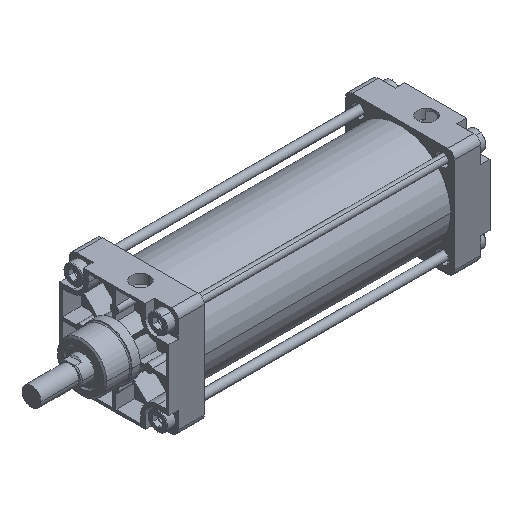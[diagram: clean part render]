
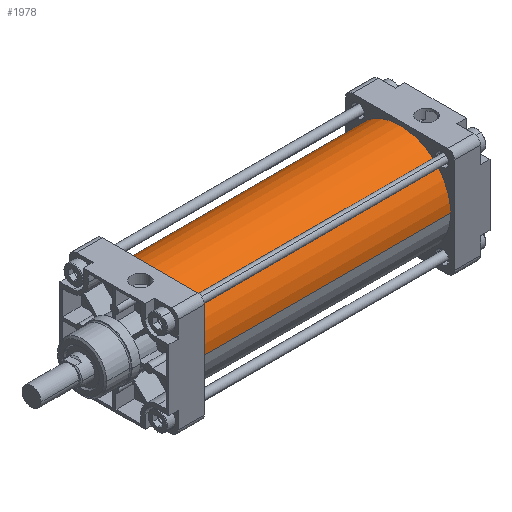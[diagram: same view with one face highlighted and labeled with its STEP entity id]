
A CAD part, isometric view. The second image highlights one B-rep face of the part: STEP entity #1978.
In plain terms, the highlighted cylindrical face has radius 53.5 mm (diameter 107 mm), a partial arc.
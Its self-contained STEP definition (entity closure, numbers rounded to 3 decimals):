
#1682=CARTESIAN_POINT('Axis2P3D Location',(0.,0.,0.)) ;
#1686=CARTESIAN_POINT('Vertex',(0.,53.5,0.)) ;
#1688=CARTESIAN_POINT('Vertex',(0.,-53.5,0.)) ;
#1948=CARTESIAN_POINT('Axis2P3D Location',(132.,0.,0.)) ;
#1953=CARTESIAN_POINT('Line Origine',(132.,53.5,0.)) ;
#1957=CARTESIAN_POINT('Vertex',(264.,53.5,0.)) ;
#1960=CARTESIAN_POINT('Line Origine',(132.,-53.5,0.)) ;
#1964=CARTESIAN_POINT('Vertex',(264.,-53.5,0.)) ;
#1967=CARTESIAN_POINT('Axis2P3D Location',(264.,0.,0.)) ;
#1683=DIRECTION('Axis2P3D Direction',(1.,0.,0.)) ;
#1949=DIRECTION('Axis2P3D Direction',(1.,0.,0.)) ;
#1950=DIRECTION('Axis2P3D XDirection',(0.,1.,0.)) ;
#1954=DIRECTION('Vector Direction',(1.,0.,0.)) ;
#1961=DIRECTION('Vector Direction',(1.,0.,0.)) ;
#1968=DIRECTION('Axis2P3D Direction',(1.,0.,0.)) ;
#1684=AXIS2_PLACEMENT_3D('Circle Axis2P3D',#1682,#1683,$) ;
#1951=AXIS2_PLACEMENT_3D('Cylinder Axis2P3D',#1948,#1949,#1950) ;
#1969=AXIS2_PLACEMENT_3D('Circle Axis2P3D',#1967,#1968,$) ;
#1973=ORIENTED_EDGE('',*,*,#1959,.F.) ;
#1974=ORIENTED_EDGE('',*,*,#1690,.T.) ;
#1975=ORIENTED_EDGE('',*,*,#1966,.T.) ;
#1976=ORIENTED_EDGE('',*,*,#1971,.F.) ;
#1955=VECTOR('Line Direction',#1954,1.) ;
#1962=VECTOR('Line Direction',#1961,1.) ;
#1978=ADVANCED_FACE('PartBody',(#1977),#1952,.T.) ;
#1685=CIRCLE('generated circle',#1684,53.5) ;
#1970=CIRCLE('generated circle',#1969,53.5) ;
#1952=CYLINDRICAL_SURFACE('generated cylinder',#1951,53.5) ;
#1690=EDGE_CURVE('',#1687,#1689,#1685,.T.) ;
#1959=EDGE_CURVE('',#1687,#1958,#1956,.T.) ;
#1966=EDGE_CURVE('',#1689,#1965,#1963,.T.) ;
#1971=EDGE_CURVE('',#1958,#1965,#1970,.T.) ;
#1972=EDGE_LOOP('',(#1973,#1974,#1975,#1976)) ;
#1977=FACE_OUTER_BOUND('',#1972,.T.) ;
#1956=LINE('Line',#1953,#1955) ;
#1963=LINE('Line',#1960,#1962) ;
#1687=VERTEX_POINT('',#1686) ;
#1689=VERTEX_POINT('',#1688) ;
#1958=VERTEX_POINT('',#1957) ;
#1965=VERTEX_POINT('',#1964) ;
